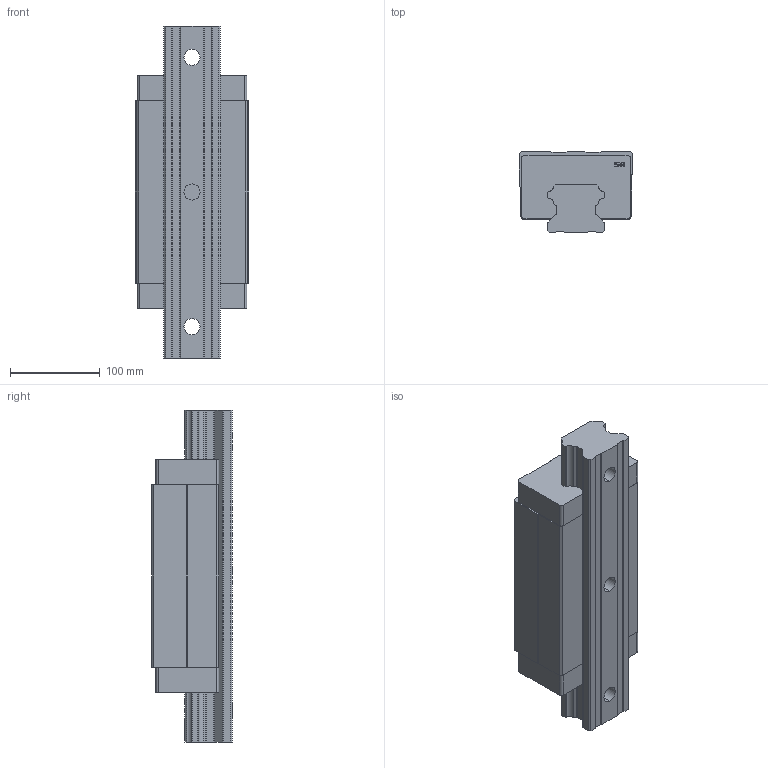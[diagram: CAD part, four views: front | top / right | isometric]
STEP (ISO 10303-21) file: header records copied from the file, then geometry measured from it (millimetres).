
FILE_DESCRIPTION (( 'STEP AP214' ), '1' );
FILE_NAME ('7.1030 Lineaarikelkka HTH65HA.STEP', '2026-03-11T07:05:52', ( '' ), ( '' ), 'SwSTEP 2.0', 'SolidWorks 2025', '' );
FILE_SCHEMA (( 'AUTOMOTIVE_DESIGN' ));
Length unit declared in the file: millimetre
Products named in the file (3): HTH65; HTR65; 7.1030 Lineaarikelkka HTH65HA
Assembly tree (2 placements, depth 2):
  7.1030 Lineaarikelkka HTH65HA
    HTH65
    HTR65
Bounding box: 126 x 90 x 370 mm (x, y, z)
Volume: 2850247 mm3; surface area: 247855.5 mm2
Topology: 2 solids, 2 shells, 233 faces, 630 edges, 420 vertices
Faces by surface type: plane 162, cylinder 46, bspline 25
Entity records: 11991 total; most frequent: CARTESIAN_POINT 3513, ORIENTED_EDGE 1260, DIRECTION 1098, EDGE_CURVE 630, LINE 488, VECTOR 488, VERTEX_POINT 420, AXIS2_PLACEMENT_3D 305
